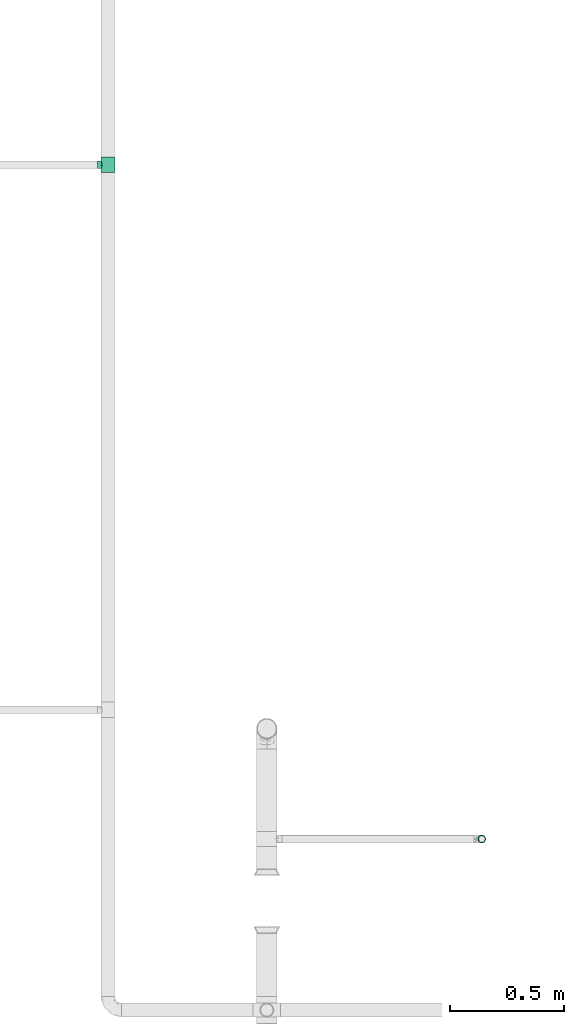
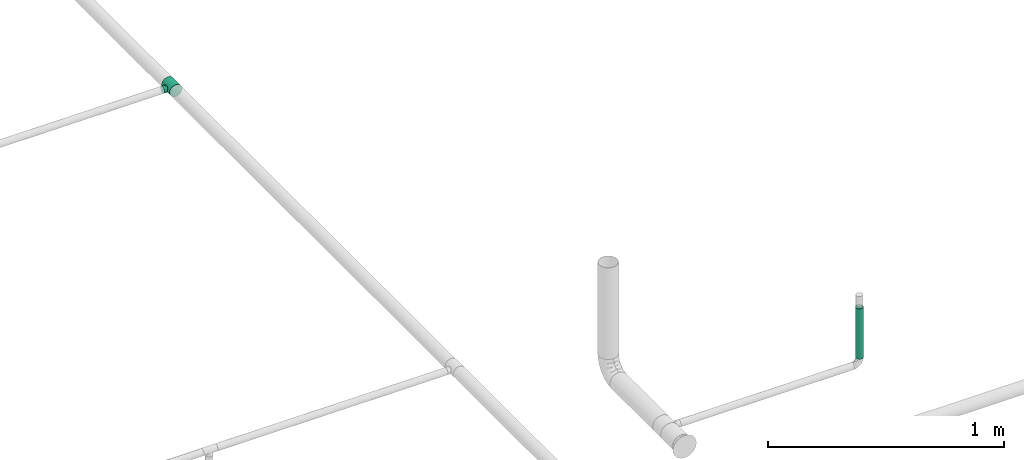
# One storey, part 7 of 45: 1 flow fitting, 1 flow segment.
"""IFC2X3 building model written with IfcOpenShell, lengths in millimetres."""

from ifc_helpers import new_model, entity, si_unit, converted_unit, derived_unit, direction, frame, origin_with_axes, origin_2d_with_axis, place, context, subcontext, project, spatial, hollow_circle, extrude, open_shell, surface_model, source, transform, mapped, type_object, element, save


model = new_model("IFC2X3")

# Units and contexts
model_context = context("Model", 3, precision=0.01, world=frame((0.0, 4.29681676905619e-09, 0.0)), true_north=direction((4.01073788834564e-13, 1.0)))
plan_context = context("Plan", 3, precision=0.01, world=frame((0.0, 4.29681676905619e-09, 0.0)), true_north=direction((4.01073788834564e-13, 1.0)))
body_context = subcontext(model_context, "Body", "Model", "MODEL_VIEW")
ifc_project = project(units=[converted_unit("PLANEANGLEUNIT", "DEGREE", entity("IfcPositiveLengthMeasure", 0.0174532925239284), si_unit("PLANEANGLEUNIT", "RADIAN"), dimensions=[0, 0, 0, 0, 0, 0, 0]), si_unit("AREAUNIT", "SQUARE_METRE"), si_unit("LENGTHUNIT", "METRE", prefix="MILLI"), si_unit("MASSUNIT", "GRAM", prefix="KILO"), si_unit("POWERUNIT", "WATT"), si_unit("PRESSUREUNIT", "PASCAL", prefix="KILO"), si_unit("FORCEUNIT", "NEWTON", prefix="KILO"), si_unit("ELECTRICVOLTAGEUNIT", "VOLT"), si_unit("ELECTRICCURRENTUNIT", "AMPERE"), si_unit("THERMODYNAMICTEMPERATUREUNIT", "DEGREE_CELSIUS"), si_unit("TIMEUNIT", "SECOND"), si_unit("VOLUMEUNIT", "CUBIC_METRE"), derived_unit("LINEARVELOCITYUNIT", [(si_unit("LENGTHUNIT", "METRE"), 1), (si_unit("TIMEUNIT", "SECOND"), -1)]), derived_unit("VOLUMETRICFLOWRATEUNIT", [(si_unit("VOLUMEUNIT", "CUBIC_METRE"), 1), (si_unit("TIMEUNIT", "SECOND"), -1)]), derived_unit("THERMALTRANSMITTANCEUNIT", [(si_unit("POWERUNIT", "WATT"), 1), (si_unit("THERMODYNAMICTEMPERATUREUNIT", "KELVIN"), -1), (si_unit("AREAUNIT", "SQUARE_METRE"), -1)]), derived_unit("SOUNDPRESSUREUNIT", [(si_unit("PRESSUREUNIT", "PASCAL"), 1)])], contexts=[model_context, plan_context])

# Site, building, storey
site_placement = place(None, frame((0.0, -4.29681676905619e-09, 0.0), z_axis=(0.0, 0.0, 1.0), x_axis=(1.0, 0.0, 0.0)))
site = spatial("IfcSite", under=ifc_project, at=site_placement, CompositionType="ELEMENT")
building_placement = place(site_placement, frame((0.0, 4.29681676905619e-09, 0.0), z_axis=(0.0, 0.0, 1.0), x_axis=(1.0, 0.0, 0.0)))
building = spatial("IfcBuilding", under=site, at=building_placement, Name="mc-building", CompositionType="ELEMENT")
storey_placement = place(building_placement, frame((0.0, 0.0, 210200.0), z_axis=(0.0, 0.0, 1.0), x_axis=(1.0, 0.0, 0.0)))
storey = spatial("IfcBuildingStorey", under=building, at=storey_placement, Name="Nivå F - 0,7 m", CompositionType="ELEMENT", Elevation=210200.0)

# Flow fitting
pipe_fitting_type = type_object("IfcPipeFittingType", Name="magi_pipe_fe_tee_centric_90_001", PredefinedType="JUNCTION")
shared_shape_1 = source(origin_with_axes(), body_context, "Body", "SurfaceModel", [
    surface_model("IfcShellBasedSurfaceModel", [(-33.8, 15.1, -26.15397), (-33.8, 7.81634, -29.17096), (-33.8, 0.0, -30.2), (-33.8, 29.17096, -7.81634), (-33.8, 26.15397, -15.1), (-33.8, 21.35462, -21.35462), (-33.8, 30.2, 0.0), (-33.8, -30.2, 0.0), (-33.8, -15.1, -26.15397), (-33.8, -21.35462, -21.35462), (-33.8, -7.81634, -29.17096), (-33.8, -26.15397, -15.1), (-33.8, -29.17096, -7.81634), (-33.8, 26.15397, 15.1), (-33.8, 29.17096, 7.81634), (-33.8, 15.1, 26.15397), (-33.8, -21.35462, 21.35462), (-33.8, 21.35462, 21.35462), (-33.8, 7.81634, 29.17096), (-33.8, -29.17096, 7.81634), (-33.8, -26.15397, 15.1), (-33.8, -7.81634, 29.17096), (-33.8, 0.0, 30.2), (-33.8, -15.1, 26.15397), (33.8, 29.17096, -7.81634), (33.8, 0.0, -30.2), (33.8, 7.81634, -29.17096), (33.8, 21.35462, -21.35462), (33.8, 15.1, -26.15397), (33.8, 26.15397, -15.1), (33.8, -30.2, 0.0), (33.8, -7.81634, -29.17096), (33.8, -21.35462, -21.35462), (33.8, -15.1, -26.15397), (33.8, -29.17096, -7.81634), (33.8, -26.15397, -15.1), (33.8, 30.2, 0.0), (33.8, 29.17096, 7.81634), (33.8, 26.15397, 15.1), (33.8, -29.17096, 7.81634), (33.8, 15.1, 26.15397), (33.8, 7.81634, 29.17096), (33.8, 21.35462, 21.35462), (33.8, -21.35462, 21.35462), (33.8, -26.15397, 15.1), (33.8, -15.1, 26.15397), (33.8, 0.0, 30.2), (33.8, -7.81634, 29.17096), (33.8, -29.68548, 3.90817), (15.846, -29.62306, 5.87488), (16.373, -29.91153, 2.93744), (12.91037, -28.16217, 10.90561), (2.99213, -25.2068, 16.63301), (16.9, -30.2, 0.0), (33.8, -27.66246, 11.45817), (8.50854, -26.43531, 14.60187), (-8.51006, -26.43579, 14.60099), (-33.8, -27.66246, 11.45817), (-12.91447, -28.16405, 10.90075), (-15.84655, -29.62335, 5.87341), (-33.8, -29.68548, 3.90817), (-16.37327, -29.91168, 2.93671), (-16.9, -30.2, 0.0), (-2.99705, -25.20739, 16.63213), (2.99213, -25.2068, -16.63301), (-16.37327, -29.91168, -2.93671), (8.50854, -26.43531, -14.60187), (33.8, -27.66246, -11.45817), (16.373, -29.91153, -2.93744), (-33.8, -29.68548, -3.90817), (-15.84655, -29.62335, -5.87341), (15.846, -29.62306, -5.87488), (12.91037, -28.16217, -10.90561), (33.8, -29.68548, -3.90817), (-2.99705, -25.20739, -16.63213), (-8.51006, -26.43579, -14.60099), (-12.91447, -28.16405, -10.90075), (-33.8, -27.66246, -11.45817), (4.37404, -45.3, -16.32415), (-16.9, -45.3, 0.0), (0.0, -45.3, -16.9), (14.63583, -45.3, -8.45), (8.45, -45.3, -14.63583), (16.32415, -45.3, -4.37404), (11.9501, -45.3, -11.9501), (-11.9501, -45.3, -11.9501), (-8.45, -45.3, -14.63583), (-4.37404, -45.3, -16.32415), (-14.63583, -45.3, -8.45), (-16.32415, -45.3, -4.37404), (16.9, -45.3, 0.0), (8.45, -45.3, 14.63583), (16.32415, -45.3, 4.37404), (14.63583, -45.3, 8.45), (-8.45, -45.3, 14.63583), (11.9501, -45.3, 11.9501), (4.37404, -45.3, 16.32415), (-16.32415, -45.3, 4.37404), (-11.9501, -45.3, 11.9501), (-14.63583, -45.3, 8.45), (0.0, -45.3, 16.9), (-4.37404, -45.3, 16.32415), (-5.75355, -25.82159, 15.61656), (-0.00246, -25.20709, 16.63257), (5.75034, -25.82105, 15.61744), (5.75034, -25.82105, -15.61744), (-0.00246, -25.20709, -16.63257), (-5.75355, -25.82159, -15.61656)], [open_shell([[[0, 1, 2]], [[3, 0, 2]], [[0, 3, 4]], [[5, 0, 4]], [[6, 2, 7]], [[8, 9, 10]], [[9, 2, 10]], [[11, 12, 9]], [[7, 9, 12]], [[9, 7, 2]], [[6, 3, 2]], [[13, 14, 6]], [[7, 15, 13]], [[7, 16, 15]], [[17, 13, 15]], [[18, 15, 16]], [[19, 20, 7]], [[7, 20, 16]], [[21, 22, 23]], [[16, 23, 22]], [[16, 22, 18]], [[7, 13, 6]], [[24, 25, 26]], [[27, 26, 28]], [[29, 24, 26]], [[29, 26, 27]], [[25, 24, 30]], [[31, 32, 33]], [[32, 31, 34]], [[32, 34, 35]], [[34, 31, 30]], [[31, 25, 30]], [[24, 36, 30]], [[36, 37, 38]], [[39, 36, 38]], [[40, 41, 38]], [[40, 38, 42]], [[43, 38, 41]], [[39, 43, 44]], [[39, 38, 43]], [[45, 46, 47]], [[46, 45, 43]], [[41, 46, 43]], [[36, 39, 30]], [[48, 39, 49]], [[30, 48, 50]], [[39, 51, 49]], [[44, 43, 52]], [[30, 50, 53]], [[51, 54, 55]], [[52, 55, 44]], [[48, 49, 50]], [[43, 16, 52]], [[55, 54, 44]], [[56, 57, 58]], [[59, 60, 61]], [[62, 61, 7]], [[59, 58, 19]], [[56, 63, 20]], [[51, 39, 54]], [[20, 57, 56]], [[20, 63, 16]], [[58, 57, 19]], [[63, 52, 16]], [[7, 61, 60]], [[59, 19, 60]], [[43, 23, 16]], [[22, 47, 46]], [[21, 45, 47]], [[18, 46, 41]], [[38, 37, 14]], [[17, 40, 42]], [[13, 42, 38]], [[41, 40, 15]], [[6, 37, 36]], [[23, 45, 21]], [[21, 47, 22]], [[18, 22, 46]], [[41, 15, 18]], [[15, 40, 17]], [[13, 17, 42]], [[14, 13, 38]], [[37, 6, 14]], [[45, 23, 43]], [[4, 24, 29]], [[3, 36, 24]], [[5, 29, 27]], [[25, 31, 10]], [[1, 28, 26]], [[2, 26, 25]], [[27, 28, 0]], [[8, 31, 33]], [[6, 36, 3]], [[3, 24, 4]], [[5, 4, 29]], [[27, 0, 5]], [[0, 28, 1]], [[2, 1, 26]], [[10, 2, 25]], [[31, 8, 10]], [[33, 9, 8]], [[32, 35, 64]], [[7, 65, 62]], [[66, 64, 35]], [[67, 66, 35]], [[32, 64, 9]], [[53, 68, 30]], [[69, 70, 65]], [[71, 72, 34]], [[71, 73, 68]], [[66, 67, 72]], [[34, 72, 67]], [[74, 75, 11]], [[76, 12, 77]], [[11, 9, 74]], [[76, 77, 75]], [[74, 9, 64]], [[76, 70, 12]], [[71, 34, 73]], [[70, 69, 12]], [[65, 7, 69]], [[30, 68, 73]], [[77, 11, 75]], [[32, 9, 33]], [[78, 79, 80]], [[81, 78, 82]], [[81, 83, 78]], [[81, 82, 84]], [[79, 78, 83]], [[80, 85, 86]], [[86, 87, 80]], [[88, 79, 89]], [[85, 80, 88]], [[79, 88, 80]], [[83, 90, 79]], [[91, 90, 92]], [[91, 92, 93]], [[94, 79, 91]], [[91, 93, 95]], [[94, 91, 96]], [[97, 98, 99]], [[98, 97, 94]], [[94, 100, 101]], [[97, 79, 94]], [[96, 100, 94]], [[91, 79, 90]], [[97, 61, 79]], [[58, 99, 98]], [[97, 99, 59]], [[98, 94, 56]], [[61, 62, 79]], [[59, 99, 58]], [[101, 63, 102]], [[56, 58, 98]], [[100, 52, 103]], [[91, 104, 96]], [[100, 96, 52]], [[50, 49, 92]], [[50, 90, 53]], [[104, 91, 55]], [[102, 94, 101]], [[102, 56, 94]], [[100, 63, 101]], [[97, 59, 61]], [[55, 91, 95]], [[95, 51, 55]], [[52, 96, 104]], [[92, 49, 93]], [[90, 50, 92]], [[93, 49, 51]], [[93, 51, 95]], [[103, 63, 100]], [[83, 68, 90]], [[72, 81, 84]], [[83, 81, 71]], [[84, 82, 66]], [[68, 53, 90]], [[71, 81, 72]], [[78, 64, 105]], [[66, 72, 84]], [[80, 74, 106]], [[86, 107, 87]], [[65, 70, 89]], [[105, 82, 78]], [[105, 66, 82]], [[75, 86, 85]], [[83, 71, 68]], [[70, 88, 89]], [[65, 79, 62]], [[85, 88, 76]], [[80, 64, 78]], [[87, 107, 74]], [[74, 80, 87]], [[75, 107, 86]], [[75, 85, 76]], [[76, 88, 70]], [[79, 65, 89]], [[106, 64, 80]]])]),
])
flow_fitting_placement = place(storey_placement, frame((323419.17326, 466123.25463, 3145.0), z_axis=(0.0, 0.0, -1.0), x_axis=(0.0, 1.0, 0.0)))
element("IfcFlowFitting", 1, at=flow_fitting_placement, inside=storey, type_object=pipe_fitting_type, Name="magi_pipe_fe_tee_centric_90_001", context=body_context, shape_type="MappedRepresentation", body=[
    mapped(shared_shape_1, transform((0.0, 0.0, 0.0), scale=1.0)),
])

# Flow segment
pipe_segment_type = type_object("IfcPipeSegmentType", Name="Stålrør normaltykke", PredefinedType="RIGIDSEGMENT")
shared_shape_2 = source(origin_with_axes(), body_context, "Body", "SweptSolid", [
    extrude(hollow_circle(Radius=16.9, WallThickness=2.0, at=origin_2d_with_axis()), frame((0.0, 0.0, 0.0), z_axis=(1.0, 0.0, 0.0), x_axis=(0.0, 1.0, 0.0)), (0.0, 0.0, 1.0), 260.8),
])
flow_segment_placement = place(storey_placement, frame((325066.3677, 463153.36146, 3232.64799999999), z_axis=(0.0, 1.0, 0.0), x_axis=(0.0, 0.0, -1.0)))
element("IfcFlowSegment", 2, at=flow_segment_placement, inside=storey, type_object=pipe_segment_type, Name="Stålrør normaltykke", context=body_context, shape_type="MappedRepresentation", body=[
    mapped(shared_shape_2, transform((0.0, 0.0, 0.0), scale=1.0)),
])

save(model, "model.ifc")
